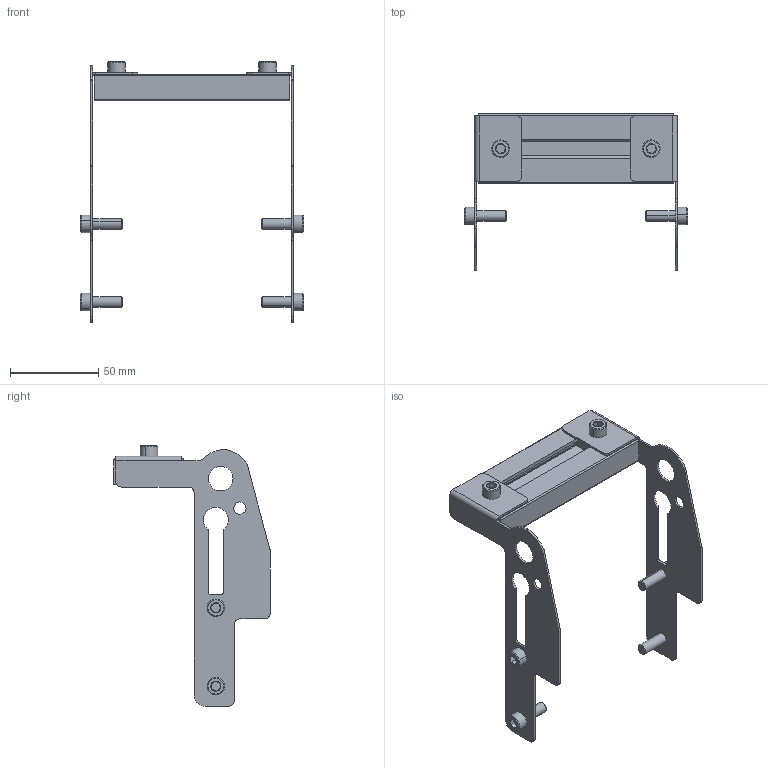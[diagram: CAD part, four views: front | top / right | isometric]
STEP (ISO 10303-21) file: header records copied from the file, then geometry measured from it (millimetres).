
FILE_DESCRIPTION((''),'2;1');
FILE_NAME('207213-04_ASM','2016-06-27T',('adam.dellomodarme'),(''),'PRO/ENGINEER BY PARAMETRIC TECHNOLOGY CORPORATION, 2012420','PRO/ENGINEER BY PARAMETRIC TECHNOLOGY CORPORATION, 2012420','');
FILE_SCHEMA(('CONFIG_CONTROL_DESIGN'));
Length unit declared in the file: inch
Products named in the file (8): 834-019; 9206XXM_920618M; 9206XXM_920612M; 207216-WW_207216-04; 207130-LH; 207130-RH; ASM0007_ASM; 207213-04_ASM
Assembly tree (12 placements, depth 3):
  207213-04_ASM
    ASM0007_ASM
      834-019  x2
      9206XXM_920618M  x4
      9206XXM_920612M  x2
      207216-WW_207216-04
      207130-LH
      207130-RH
Bounding box: 126.86 x 88.64 x 147.81 mm (x, y, z)
Volume: 52919.7 mm3; surface area: 57508 mm2
Topology: 11 solids, 11 shells, 344 faces, 843 edges, 533 vertices
Faces by surface type: plane 146, cylinder 132, cone 66
Entity records: 7918 total; most frequent: CARTESIAN_POINT 1592, DIRECTION 1346, ORIENTED_EDGE 1258, EDGE_CURVE 629, AXIS2_PLACEMENT_3D 499, VERTEX_POINT 409, VECTOR 348, LINE 348
